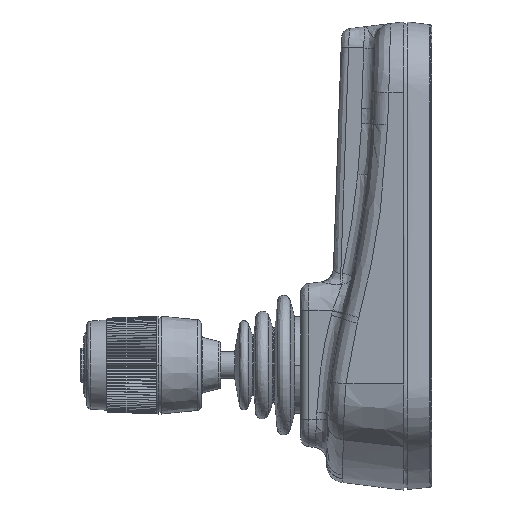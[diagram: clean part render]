
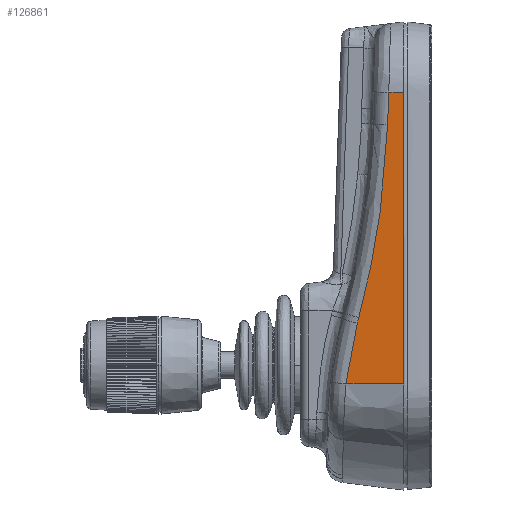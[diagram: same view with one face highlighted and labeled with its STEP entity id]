
A CAD part, left-side view. The second image highlights one B-rep face of the part: STEP entity #126861.
In plain terms, the highlighted planar face has unit normal (-0.993, 0.122, 0).
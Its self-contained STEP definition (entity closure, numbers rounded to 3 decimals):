
#1264 = LINE ( 'NONE', #1265, #72888 ) ;
#1265 = CARTESIAN_POINT ( 'NONE',  ( -76.819, 20.632, -6.808 ) ) ;
#1266 = DIRECTION ( 'NONE',  ( -0.122, -0.993, 0. ) ) ;
#1287 = CARTESIAN_POINT ( 'NONE',  ( -76.12, 26.329, 17.133 ) ) ;
#1291 = CARTESIAN_POINT ( 'NONE',  ( -76.098, 26.508, 16.465 ) ) ;
#1292 = CARTESIAN_POINT ( 'NONE',  ( -76.076, 26.687, 15.797 ) ) ;
#1293 = CARTESIAN_POINT ( 'NONE',  ( -76.054, 26.866, 15.129 ) ) ;
#1456 = CARTESIAN_POINT ( 'NONE',  ( -77.448, 15.51, 98.425 ) ) ;
#1457 = CARTESIAN_POINT ( 'NONE',  ( -77.431, 15.646, 94.552 ) ) ;
#1458 = CARTESIAN_POINT ( 'NONE',  ( -77.415, 15.781, 90.679 ) ) ;
#1459 = CARTESIAN_POINT ( 'NONE',  ( -77.398, 15.916, 86.806 ) ) ;
#1822 = CARTESIAN_POINT ( 'NONE',  ( -77.398, 15.916, 86.806 ) ) ;
#1823 = CARTESIAN_POINT ( 'NONE',  ( -77.348, 16.327, 75.034 ) ) ;
#1824 = CARTESIAN_POINT ( 'NONE',  ( -77.216, 17.403, 63.323 ) ) ;
#1825 = CARTESIAN_POINT ( 'NONE',  ( -76.788, 20.885, 40.025 ) ) ;
#1826 = CARTESIAN_POINT ( 'NONE',  ( -76.494, 23.28, 28.512 ) ) ;
#1827 = CARTESIAN_POINT ( 'NONE',  ( -76.12, 26.329, 17.133 ) ) ;
#3400 = CARTESIAN_POINT ( 'NONE',  ( -76.054, 26.866, 15.129 ) ) ;
#3408 = CARTESIAN_POINT ( 'NONE',  ( -75.935, 27.83, 11.532 ) ) ;
#3411 = CARTESIAN_POINT ( 'NONE',  ( -75.834, 28.655, 7.902 ) ) ;
#3412 = CARTESIAN_POINT ( 'NONE',  ( -75.665, 30.028, 0.576 ) ) ;
#3415 = CARTESIAN_POINT ( 'NONE',  ( -75.598, 30.574, -3.106 ) ) ;
#3416 = CARTESIAN_POINT ( 'NONE',  ( -75.549, 30.978, -6.808 ) ) ;
#5886 = CARTESIAN_POINT ( 'NONE',  ( -76.12, 26.329, 17.133 ) ) ;
#20440 = LINE ( 'NONE', #20443, #77608 ) ;
#20443 = CARTESIAN_POINT ( 'NONE',  ( -78.105, 10.16, 45.808 ) ) ;
#20446 = DIRECTION ( 'NONE',  ( 0., 0., -1. ) ) ;
#20599 = LINE ( 'NONE', #20601, #77614 ) ;
#20601 = CARTESIAN_POINT ( 'NONE',  ( -77.775, 12.851, 98.425 ) ) ;
#20604 = DIRECTION ( 'NONE',  ( -0.122, -0.993, 0. ) ) ;
#21368 = AXIS2_PLACEMENT_3D ( 'NONE', #115375, #115376, #115377 ) ;
#21400 = FACE_OUTER_BOUND ( 'NONE', #92969, .T. ) ;
#35941 = VERTEX_POINT ( 'NONE', #114557 ) ;
#36032 = VERTEX_POINT ( 'NONE', #114767 ) ;
#36164 = VERTEX_POINT ( 'NONE', #80672 ) ;
#36231 = VERTEX_POINT ( 'NONE', #80701 ) ;
#36303 = VERTEX_POINT ( 'NONE', #81316 ) ;
#36333 = VERTEX_POINT ( 'NONE', #81238 ) ;
#72888 = VECTOR ( 'NONE', #1266, 1000. ) ;
#77608 = VECTOR ( 'NONE', #20446, 1000. ) ;
#77614 = VECTOR ( 'NONE', #20604, 1000. ) ;
#80672 = CARTESIAN_POINT ( 'NONE',  ( -78.105, 10.16, -6.808 ) ) ;
#80701 = CARTESIAN_POINT ( 'NONE',  ( -76.054, 26.866, 15.129 ) ) ;
#81238 = CARTESIAN_POINT ( 'NONE',  ( -75.549, 30.978, -6.808 ) ) ;
#81316 = CARTESIAN_POINT ( 'NONE',  ( -77.448, 15.51, 98.425 ) ) ;
#88152 = EDGE_CURVE ( 'NONE', #36032, #36164, #20440, .T. ) ;
#88160 = EDGE_CURVE ( 'NONE', #36303, #36032, #20599, .T. ) ;
#92969 = EDGE_LOOP ( 'NONE', ( #106731, #106733, #106734, #106732, #106736, #106735, #106738 ) ) ;
#106731 = ORIENTED_EDGE ( 'NONE', *, *, #125780, .T. ) ;
#106732 = ORIENTED_EDGE ( 'NONE', *, *, #88152, .F. ) ;
#106733 = ORIENTED_EDGE ( 'NONE', *, *, #125761, .T. ) ;
#106734 = ORIENTED_EDGE ( 'NONE', *, *, #125775, .T. ) ;
#106735 = ORIENTED_EDGE ( 'NONE', *, *, #125795, .T. ) ;
#106736 = ORIENTED_EDGE ( 'NONE', *, *, #88160, .F. ) ;
#106738 = ORIENTED_EDGE ( 'NONE', *, *, #125824, .T. ) ;
#114557 = CARTESIAN_POINT ( 'NONE',  ( -77.398, 15.916, 86.806 ) ) ;
#114767 = CARTESIAN_POINT ( 'NONE',  ( -78.105, 10.16, 98.425 ) ) ;
#115374 = PLANE ( 'NONE',  #21368 ) ;
#115375 = CARTESIAN_POINT ( 'NONE',  ( -78.105, 10.16, 98.425 ) ) ;
#115376 = DIRECTION ( 'NONE',  ( -0.993, 0.122, 0. ) ) ;
#115377 = DIRECTION ( 'NONE',  ( 0.122, 0.993, 0. ) ) ;
#120891 = B_SPLINE_CURVE_WITH_KNOTS ( 'NONE', 3,
 ( #3400, #3408, #3411, #3412, #3415, #3416 ),
 .UNSPECIFIED., .F., .F.,
 ( 4, 2, 4 ),
 ( 0., 0.5, 1. ),
 .UNSPECIFIED. ) ;
#120908 = B_SPLINE_CURVE_WITH_KNOTS ( 'NONE', 3,
 ( #1287, #1291, #1292, #1293 ),
 .UNSPECIFIED., .F., .F.,
 ( 4, 4 ),
 ( 0., 1. ),
 .UNSPECIFIED. ) ;
#120929 = B_SPLINE_CURVE_WITH_KNOTS ( 'NONE', 3,
 ( #1456, #1457, #1458, #1459 ),
 .UNSPECIFIED., .F., .F.,
 ( 4, 4 ),
 ( 0., 1. ),
 .UNSPECIFIED. ) ;
#120967 = B_SPLINE_CURVE_WITH_KNOTS ( 'NONE', 3,
 ( #1822, #1823, #1824, #1825, #1826, #1827 ),
 .UNSPECIFIED., .F., .F.,
 ( 4, 2, 4 ),
 ( 0., 0.5, 1. ),
 .UNSPECIFIED. ) ;
#124358 = VERTEX_POINT ( 'NONE', #5886 ) ;
#125761 = EDGE_CURVE ( 'NONE', #36231, #36333, #120891, .T. ) ;
#125775 = EDGE_CURVE ( 'NONE', #36333, #36164, #1264, .T. ) ;
#125780 = EDGE_CURVE ( 'NONE', #124358, #36231, #120908, .T. ) ;
#125795 = EDGE_CURVE ( 'NONE', #36303, #35941, #120929, .T. ) ;
#125824 = EDGE_CURVE ( 'NONE', #35941, #124358, #120967, .T. ) ;
#126861 = ADVANCED_FACE ( 'NONE', ( #21400 ), #115374, .T. ) ;
